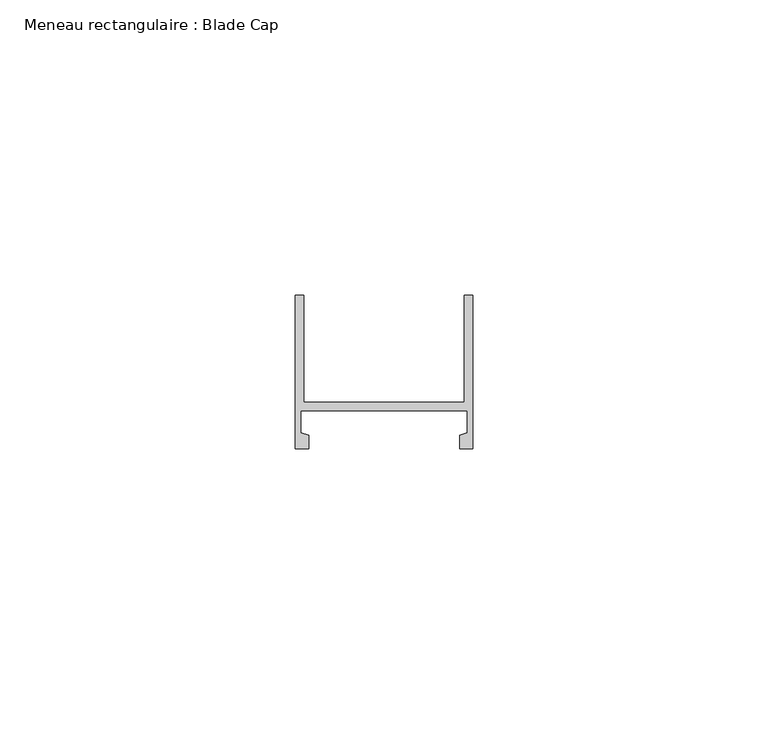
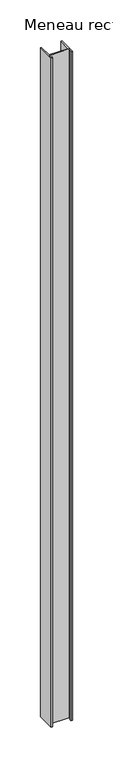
"""IFC4 building model written with IfcOpenShell, lengths in millimetres: member geometry, Meneau rectangulaire : Blade Cap."""

from ifc_helpers import new_model, si_unit, frame, origin, place, context, project, spatial, polyline, outline, extrude, source, transform, mapped, element, save


def meneau_rectangulaire_blade_cap_e8b624e4(model_context):
    return source(origin(), model_context, "Body", "SweptSolid", [
        extrude(outline(polyline([(-30.0, 31.9289818), (-28.6, 31.9289818), (-28.6, 13.8079436), (-1.4, 13.8079436), (-1.4, 31.9289818), (0.0, 31.9289818), (0.0, 6.0), (-2.149007, 6.0), (-2.149007, 8.2419727), (-0.9183204, 8.6374539), (-0.9183204, 12.4079436), (-29.0816796, 12.4079436), (-29.0816796, 8.6617834), (-27.7752828, 8.2419727), (-27.7752828, 6.0), (-30.0, 6.0), (-30.0, 31.9289818)])), frame((0.0, 0.0, -1000.0), z_axis=(0.0, 0.0, 1.0), x_axis=(1.0, 0.0, 0.0)), (0.0, 0.0, 1.0), 1000.0),
    ])


if __name__ == "__main__":
    model = new_model("IFC4")
    model_context = context("Model", 3, world=origin())
    ifc_project = project(units=[si_unit("LENGTHUNIT", "METRE", prefix="MILLI")], contexts=[model_context])
    site = spatial("IfcSite", under=ifc_project)
    building = spatial("IfcBuilding", under=site)
    placement = place(None, origin())
    meneau_rectangulaire_blade_cap_shape = meneau_rectangulaire_blade_cap_e8b624e4(model_context)
    element("IfcMember", 1, ObjectType="Meneau rectangulaire : Blade Cap", at=placement, inside=building, context=model_context, shape_type="MappedRepresentation", body=[
        mapped(meneau_rectangulaire_blade_cap_shape, transform((0.0, 0.0, 0.0), x_axis=(1.0, 0.0, 0.0), y_axis=(0.0, 1.0, 0.0), z_axis=(0.0, 0.0, 1.0))),
    ])
    save(model, "model.ifc")
